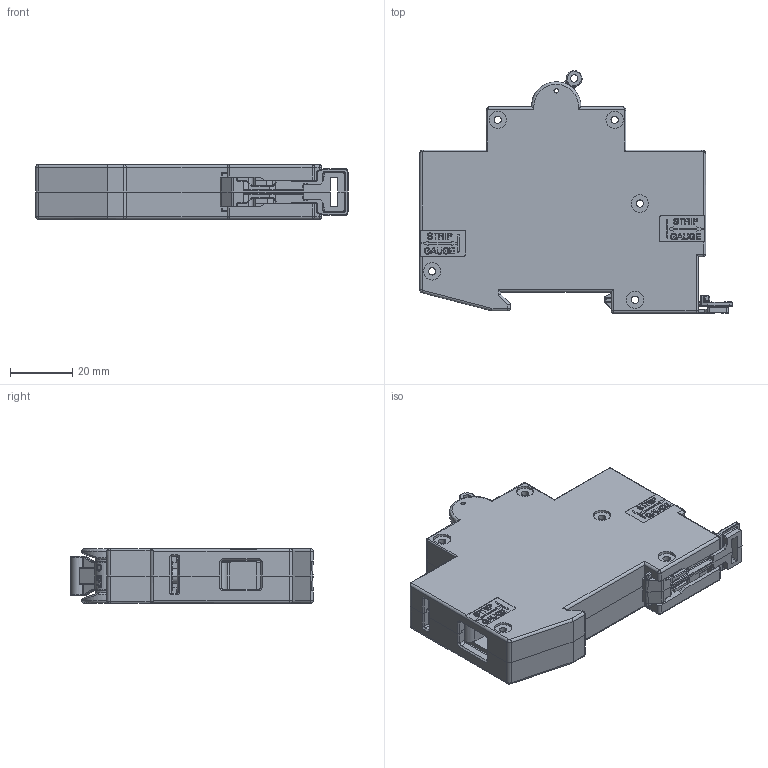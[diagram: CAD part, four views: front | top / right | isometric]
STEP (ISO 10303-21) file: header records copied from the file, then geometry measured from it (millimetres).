
FILE_DESCRIPTION((''),'2;1');
FILE_NAME('2012-3P_WRP','2009-02-09T',('jianzhuanlin'),(''),'PRO/ENGINEER BY PARAMETRIC TECHNOLOGY CORPORATION, 2008010','PRO/ENGINEER BY PARAMETRIC TECHNOLOGY CORPORATION, 2008010','');
FILE_SCHEMA(('CONFIG_CONTROL_DESIGN'));
Products named in the file (1): 2012-3P_WRP
Bounding box: 100.66 x 78.17 x 17.48 mm (x, y, z)
Surface area: 40867.2 mm2 (no closed solid volume)
Topology: 0 solids, 117 shells, 2081 faces, 8376 edges, 6351 vertices
Faces by surface type: plane 1188, cylinder 598, bspline 107, torus 98, cone 49, sphere 38, extrusion 3
Entity records: 93620 total; most frequent: CARTESIAN_POINT 26347, ORIENTED_EDGE 13242, DIRECTION 12783, EDGE_CURVE 8376, VERTEX_POINT 6351, VECTOR 6133, LINE 6130, AXIS2_PLACEMENT_3D 3325
